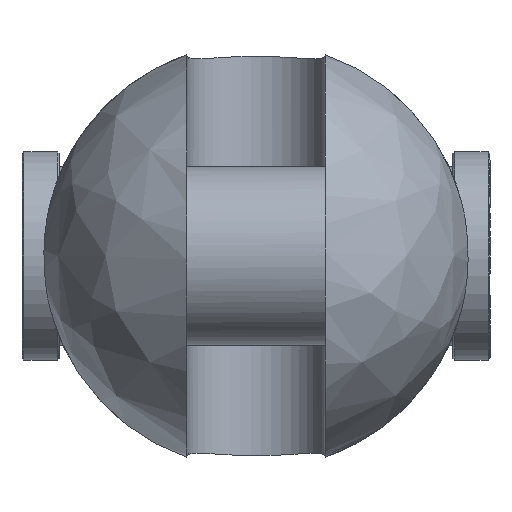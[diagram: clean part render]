
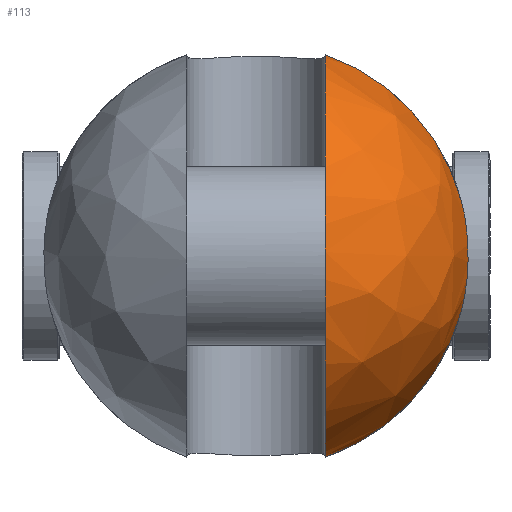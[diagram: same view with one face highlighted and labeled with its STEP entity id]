
A CAD part, left-side view. The second image highlights one B-rep face of the part: STEP entity #113.
In plain terms, the highlighted free-form (B-spline) face has degree [2, 2] with [9, 5] control points.
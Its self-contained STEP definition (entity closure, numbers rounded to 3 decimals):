
#113=ADVANCED_FACE('',(#200),#1522,.T.);
#200=FACE_OUTER_BOUND('',#299,.T.);
#299=EDGE_LOOP('',(#739,#740,#741,#742));
#739=ORIENTED_EDGE('',*,*,#995,.T.);
#740=ORIENTED_EDGE('',*,*,#992,.F.);
#741=ORIENTED_EDGE('',*,*,#1012,.T.);
#742=ORIENTED_EDGE('',*,*,#984,.F.);
#984=EDGE_CURVE('',#1413,#1414,#1245,.T.);
#992=EDGE_CURVE('',#1421,#1422,#1246,.T.);
#995=EDGE_CURVE('',#1413,#1422,#1248,.T.);
#1012=EDGE_CURVE('',#1421,#1414,#1120,.T.);
#1120=B_SPLINE_CURVE_WITH_KNOTS('',3,(#3619,#3620,#3621,#3622,#3623,#3624,
#3625,#3626,#3627,#3628,#3629,#3630,#3631,#3632),.UNSPECIFIED.,.F.,.F.,
(4,2,2,2,2,2,4),(0.,3.482,9.529,15.576,21.623,
27.67,31.152),.UNSPECIFIED.);
#1245=(
BOUNDED_CURVE()
B_SPLINE_CURVE(2,(#3469,#3470,#3471),.UNSPECIFIED.,.F.,.F.)
B_SPLINE_CURVE_WITH_KNOTS((3,3),(0.,55.829),.UNSPECIFIED.)
CURVE()
GEOMETRIC_REPRESENTATION_ITEM()
RATIONAL_B_SPLINE_CURVE((1.,0.882,1.))
REPRESENTATION_ITEM('')
);
#1246=(
BOUNDED_CURVE()
B_SPLINE_CURVE(2,(#3526,#3527,#3528),.UNSPECIFIED.,.F.,.F.)
B_SPLINE_CURVE_WITH_KNOTS((3,3),(0.,55.829),.UNSPECIFIED.)
CURVE()
GEOMETRIC_REPRESENTATION_ITEM()
RATIONAL_B_SPLINE_CURVE((1.,0.882,1.))
REPRESENTATION_ITEM('')
);
#1248=(
BOUNDED_CURVE()
B_SPLINE_CURVE(2,(#3534,#3535,#3536,#3537,#3538),.UNSPECIFIED.,.F.,.F.)
B_SPLINE_CURVE_WITH_KNOTS((3,2,3),(-169.377,-84.688,
0.),.UNSPECIFIED.)
CURVE()
GEOMETRIC_REPRESENTATION_ITEM()
RATIONAL_B_SPLINE_CURVE((1.,0.707,1.,0.707,1.))
REPRESENTATION_ITEM('')
);
#1413=VERTEX_POINT('',#3269);
#1414=VERTEX_POINT('',#3270);
#1421=VERTEX_POINT('',#3277);
#1422=VERTEX_POINT('',#3278);
#1522=(
BOUNDED_SURFACE()
B_SPLINE_SURFACE(2,2,((#3141,#3142,#3143,#3144,#3145),(#3146,#3147,#3148,
#3149,#3150),(#3151,#3152,#3153,#3154,#3155),(#3156,#3157,#3158,#3159,#3160),
(#3161,#3162,#3163,#3164,#3165),(#3166,#3167,#3168,#3169,#3170),(#3171,
#3172,#3173,#3174,#3175),(#3176,#3177,#3178,#3179,#3180),(#3181,#3182,#3183,
#3184,#3185)),.UNSPECIFIED.,.T.,.F.,.F.)
B_SPLINE_SURFACE_WITH_KNOTS((3,2,2,2,3),(3,2,3),(0.,89.535,179.071,
268.606,358.142),(0.,89.535,179.071),
 .UNSPECIFIED.)
GEOMETRIC_REPRESENTATION_ITEM()
RATIONAL_B_SPLINE_SURFACE(((1.,0.707,1.,0.707,1.),
(0.707,0.5,0.707,0.5,0.707),(1.,0.707,
1.,0.707,1.),(0.707,0.5,0.707,0.5,0.707),
(1.,0.707,1.,0.707,1.),(0.707,0.5,0.707,
0.5,0.707),(1.,0.707,1.,0.707,1.),(0.707,
0.5,0.707,0.5,0.707),(1.,0.707,1.,0.707,
1.)))
REPRESENTATION_ITEM('')
SURFACE()
);
#3141=CARTESIAN_POINT('',(-82.,0.,0.));
#3142=CARTESIAN_POINT('',(-82.,57.,0.));
#3143=CARTESIAN_POINT('',(-25.,57.,0.));
#3144=CARTESIAN_POINT('',(32.,57.,0.));
#3145=CARTESIAN_POINT('',(32.,0.,0.));
#3146=CARTESIAN_POINT('',(-82.,0.,0.));
#3147=CARTESIAN_POINT('',(-82.,57.,57.));
#3148=CARTESIAN_POINT('',(-25.,57.,57.));
#3149=CARTESIAN_POINT('',(32.,57.,57.));
#3150=CARTESIAN_POINT('',(32.,0.,0.));
#3151=CARTESIAN_POINT('',(-82.,0.,0.));
#3152=CARTESIAN_POINT('',(-82.,0.,57.));
#3153=CARTESIAN_POINT('',(-25.,0.,57.));
#3154=CARTESIAN_POINT('',(32.,0.,57.));
#3155=CARTESIAN_POINT('',(32.,0.,0.));
#3156=CARTESIAN_POINT('',(-82.,0.,0.));
#3157=CARTESIAN_POINT('',(-82.,-57.,57.));
#3158=CARTESIAN_POINT('',(-25.,-57.,57.));
#3159=CARTESIAN_POINT('',(32.,-57.,57.));
#3160=CARTESIAN_POINT('',(32.,0.,0.));
#3161=CARTESIAN_POINT('',(-82.,0.,0.));
#3162=CARTESIAN_POINT('',(-82.,-57.,0.));
#3163=CARTESIAN_POINT('',(-25.,-57.,0.));
#3164=CARTESIAN_POINT('',(32.,-57.,0.));
#3165=CARTESIAN_POINT('',(32.,0.,0.));
#3166=CARTESIAN_POINT('',(-82.,0.,0.));
#3167=CARTESIAN_POINT('',(-82.,-57.,-57.));
#3168=CARTESIAN_POINT('',(-25.,-57.,-57.));
#3169=CARTESIAN_POINT('',(32.,-57.,-57.));
#3170=CARTESIAN_POINT('',(32.,0.,0.));
#3171=CARTESIAN_POINT('',(-82.,0.,0.));
#3172=CARTESIAN_POINT('',(-82.,0.,-57.));
#3173=CARTESIAN_POINT('',(-25.,0.,-57.));
#3174=CARTESIAN_POINT('',(32.,0.,-57.));
#3175=CARTESIAN_POINT('',(32.,0.,0.));
#3176=CARTESIAN_POINT('',(-82.,0.,0.));
#3177=CARTESIAN_POINT('',(-82.,57.,-57.));
#3178=CARTESIAN_POINT('',(-25.,57.,-57.));
#3179=CARTESIAN_POINT('',(32.,57.,-57.));
#3180=CARTESIAN_POINT('',(32.,0.,0.));
#3181=CARTESIAN_POINT('',(-82.,0.,0.));
#3182=CARTESIAN_POINT('',(-82.,57.,0.));
#3183=CARTESIAN_POINT('',(-25.,57.,0.));
#3184=CARTESIAN_POINT('',(32.,57.,0.));
#3185=CARTESIAN_POINT('',(32.,0.,0.));
#3269=CARTESIAN_POINT('',(-25.,-18.5,53.914));
#3270=CARTESIAN_POINT('',(-25.,-55.073,14.697));
#3277=CARTESIAN_POINT('',(-25.,-55.073,-14.697));
#3278=CARTESIAN_POINT('',(-25.,-18.5,-53.914));
#3469=CARTESIAN_POINT('',(-25.,-18.5,53.914));
#3470=CARTESIAN_POINT('',(-25.,-47.239,44.053));
#3471=CARTESIAN_POINT('',(-25.,-55.073,14.697));
#3526=CARTESIAN_POINT('',(-25.,-55.073,-14.697));
#3527=CARTESIAN_POINT('',(-25.,-47.239,-44.053));
#3528=CARTESIAN_POINT('',(-25.,-18.5,-53.914));
#3534=CARTESIAN_POINT('',(-25.,-18.5,53.914));
#3535=CARTESIAN_POINT('',(-78.914,-18.5,53.914));
#3536=CARTESIAN_POINT('',(-78.914,-18.5,0.));
#3537=CARTESIAN_POINT('',(-78.914,-18.5,-53.914));
#3538=CARTESIAN_POINT('',(-25.,-18.5,-53.914));
#3619=CARTESIAN_POINT('',(-25.,-55.073,-14.697));
#3620=CARTESIAN_POINT('',(-25.579,-55.336,-13.712));
#3621=CARTESIAN_POINT('',(-26.105,-55.572,-12.684));
#3622=CARTESIAN_POINT('',(-27.372,-56.14,-9.787));
#3623=CARTESIAN_POINT('',(-27.989,-56.414,-7.85));
#3624=CARTESIAN_POINT('',(-28.803,-56.773,-3.924));
#3625=CARTESIAN_POINT('',(-29.,-56.859,-1.935));
#3626=CARTESIAN_POINT('',(-29.,-56.859,1.935));
#3627=CARTESIAN_POINT('',(-28.803,-56.773,3.924));
#3628=CARTESIAN_POINT('',(-27.989,-56.414,7.85));
#3629=CARTESIAN_POINT('',(-27.372,-56.14,9.787));
#3630=CARTESIAN_POINT('',(-26.105,-55.572,12.684));
#3631=CARTESIAN_POINT('',(-25.579,-55.336,13.712));
#3632=CARTESIAN_POINT('',(-25.,-55.073,14.697));
